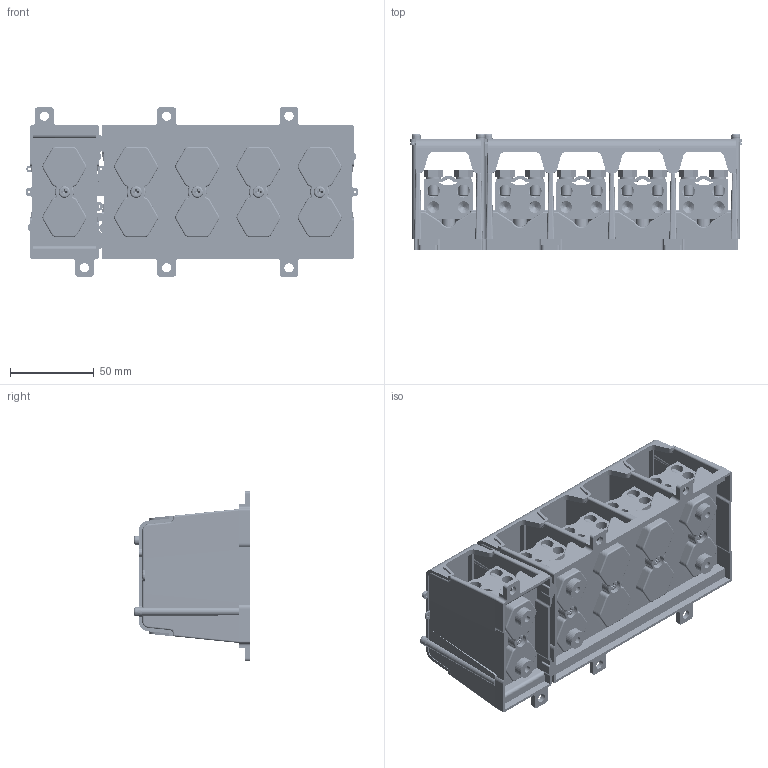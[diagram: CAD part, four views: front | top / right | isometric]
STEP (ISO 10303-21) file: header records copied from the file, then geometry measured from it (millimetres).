
FILE_DESCRIPTION(/* description */ ('Unknown'),/* implementation_level */ '2;1');
FILE_NAME(/* name */ 'DTS 5x35_5x8x16',/* time_stamp */ '2024-04-25T14:16:31+02:00',/* author */ ('Unknown'),/* organization */ ('Unknown'),/* preprocessor_version */ 'ST-DEVELOPER v18.104',/* originating_system */ 'Solid Edge',/* authorisation */ 'Unknown');
FILE_SCHEMA (('AUTOMOTIVE_DESIGN {1 0 10303 214 3 1 1}'));
Products named in the file (1): DTS 5x35_5x8x16
Bounding box: 198.2 x 69.2 x 101.2 mm (x, y, z)
Volume: 357032.7 mm3; surface area: 227293.8 mm2
Topology: 1 solids, 1 shells, 4445 faces, 12589 edges, 7759 vertices
Faces by surface type: plane 2100, cylinder 1558, torus 297, cone 245, bspline 125, sphere 120
Full cylindrical faces by diameter (mm): 1.4 x8, 4 x5, 4.2 x11, 4.9 x5, 4.917 x40, 5.4 x4, 5.5 x10, 6 x30, 6.4 x10, 7 x25, 7.7 x20, 8 x11, 8.2 x5, 11.3 x6
Entity records: 172040 total; most frequent: CARTESIAN_POINT 30906, ORIENTED_EDGE 22926, DIRECTION 22869, EDGE_CURVE 11463, AXIS2_PLACEMENT_3D 8180, VERTEX_POINT 7454, LINE 6509, VECTOR 6509
